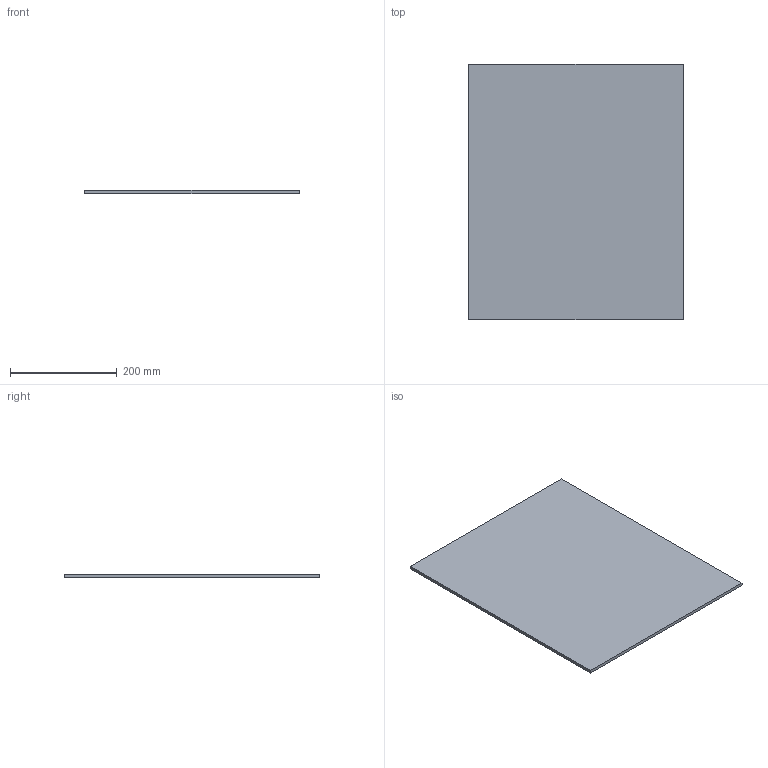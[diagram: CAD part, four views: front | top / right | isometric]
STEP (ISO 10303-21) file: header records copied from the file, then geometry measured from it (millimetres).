
FILE_DESCRIPTION (( 'STEP AP214' ), '1' );
FILE_NAME ('Lochblech_NL500_KAB500_19.step', '2010-10-11T13:38:36', ( 'grass' ), ( '' ), 'SwSTEP 2.0', 'SolidWorks 2010', '' );
FILE_SCHEMA (( 'AUTOMOTIVE_DESIGN' ));
Length unit declared in the file: millimetre
Products named in the file (1): Lochblech_NL500_KAB500_19
Bounding box: 402 x 479 x 6 mm (x, y, z)
Volume: 1155348 mm3; surface area: 395688 mm2
Topology: 1 solids, 1 shells, 6 faces, 12 edges, 8 vertices
Faces by surface type: plane 6
Entity records: 190 total; most frequent: CARTESIAN_POINT 27, DIRECTION 26, ORIENTED_EDGE 24, EDGE_CURVE 12, LINE 12, VECTOR 12, VERTEX_POINT 8, AXIS2_PLACEMENT_3D 7
